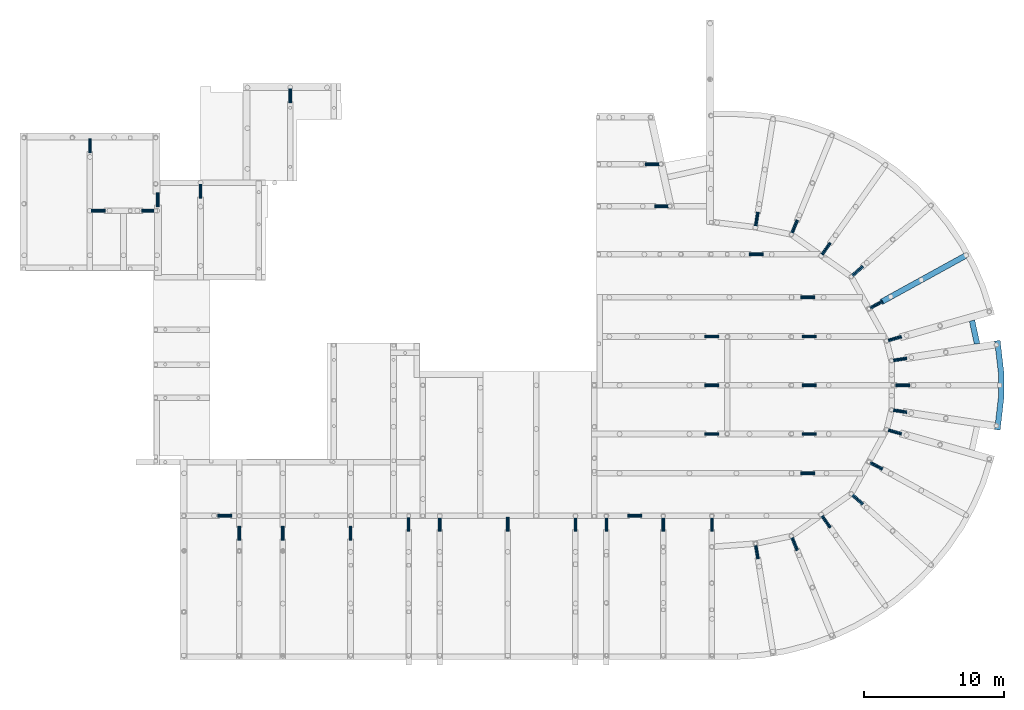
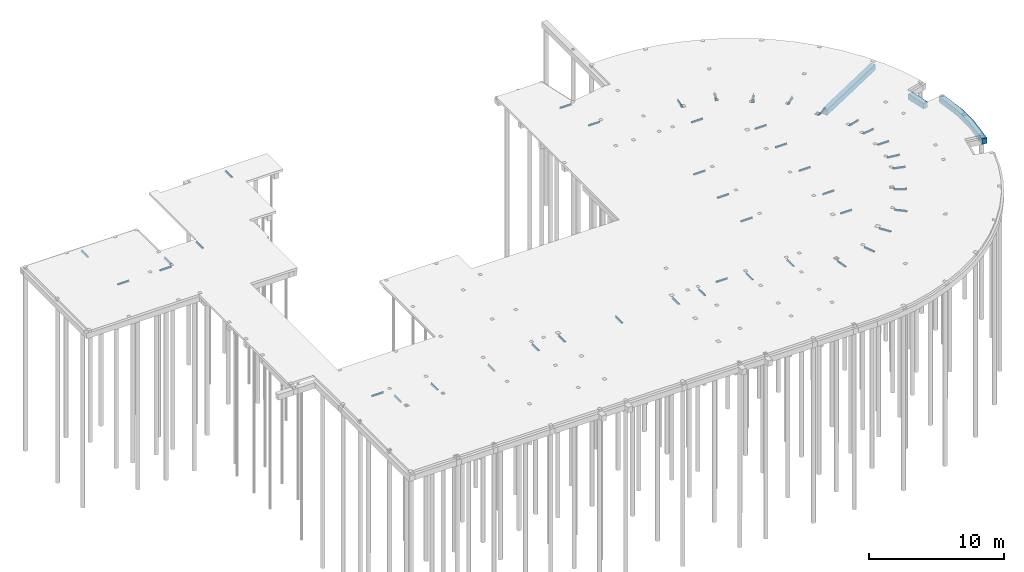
# One storey, part 6 of 22: 91 beams.
"""IFC2X3 building model written with IfcOpenShell, lengths in millimetres."""

from ifc_helpers import new_model, si_unit, frame, origin_with_axes, origin_2d_with_axis, place, context, subcontext, project, spatial, rectangle, extrude, clip, halfspace, faceted_brep, material, type_object, element, save


model = new_model("IFC2X3")

# Units and contexts
model_context = context("Model", 3, precision=1e-05, world=origin_with_axes())
body_context = subcontext(model_context, "Body", "Model", "MODEL_VIEW")
ifc_project = project(units=[si_unit("LENGTHUNIT", "METRE", prefix="MILLI"), si_unit("AREAUNIT", "SQUARE_METRE"), si_unit("VOLUMEUNIT", "CUBIC_METRE"), si_unit("MASSUNIT", "GRAM", prefix="KILO"), si_unit("TIMEUNIT", "SECOND"), si_unit("PLANEANGLEUNIT", "RADIAN"), si_unit("SOLIDANGLEUNIT", "STERADIAN"), si_unit("THERMODYNAMICTEMPERATUREUNIT", "DEGREE_CELSIUS"), si_unit("LUMINOUSINTENSITYUNIT", "LUMEN")], contexts=[model_context])

# Site, building, storey
site_placement = place(None, origin_with_axes())
site = spatial("IfcSite", under=ifc_project, at=site_placement, Name="Undefined", CompositionType="ELEMENT")
building_placement = place(site_placement, origin_with_axes())
building = spatial("IfcBuilding", under=site, at=building_placement, Name="Undefined", CompositionType="ELEMENT")
storey_placement = place(building_placement, origin_with_axes())
storey = spatial("IfcBuildingStorey", under=building, at=storey_placement, Name="Undefined", CompositionType="ELEMENT", Elevation=0.0)

# Beams
ifc_material_1 = material(Name="CONCRETE/C30/37")
beam_type_1 = type_object("IfcBeamType", Name="400*500", PredefinedType="NOTDEFINED")
beam_1_placement = place(storey_placement, frame((67996.183567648, 24218.1717269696, -520.0), z_axis=(0.0, 0.0, 1.0), x_axis=(0.211578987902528, -0.977360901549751, 0.0)))
element("IfcBeam", 1, at=beam_1_placement, inside=storey, type_object=beam_type_1, material=ifc_material_1, Name="BALK", context=body_context, shape_type="Clipping", body=[
    clip(clip(extrude(rectangle(XDim=400.0, YDim=500.0, at=origin_2d_with_axis()), frame((1837.99334941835, 0.0, 0.0), z_axis=(-1.0, 0.0, 0.0), x_axis=(0.0, -1.0, 0.0)), (0.0, 0.0, 1.0), 2035.02), halfspace(frame((1693.49527687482, 364.867330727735, 520.0), z_axis=(0.9980759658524, -0.0620029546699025, 0.0), x_axis=(-0.0620029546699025, -0.9980759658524, 0.0)), False)), halfspace(frame((-56.725872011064, 429.391826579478, 520.0), z_axis=(0.998049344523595, 0.0624300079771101, 0.0), x_axis=(0.0624300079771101, -0.998049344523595, 0.0)), True)),
])
beam_2_placement = place(storey_placement, frame((67507.7173699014, 28889.9866931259, -520.0), z_axis=(0.0, 0.0, 1.0), x_axis=(-0.876201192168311, -0.481945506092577, 0.0)))
element("IfcBeam", 2, at=beam_2_placement, inside=storey, type_object=beam_type_1, material=ifc_material_1, Name="BALK", context=body_context, shape_type="SweptSolid", body=[
    extrude(rectangle(XDim=400.0, YDim=500.0, at=origin_2d_with_axis()), frame((6879.90820317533, -3.81911624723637e-13, 0.0), z_axis=(-1.0, 0.0, 0.0), x_axis=(0.0, -1.0, 0.0)), (0.0, 0.0, 1.0), 6879.91),
])
beam_3_placement = place(storey_placement, frame((69803.4011095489, 16418.4739799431, -520.0), z_axis=(0.0, 0.0, 1.0), x_axis=(0.115783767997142, 0.993274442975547, 0.0)))
element("IfcBeam", 3, at=beam_3_placement, inside=storey, type_object=beam_type_1, material=ifc_material_1, Name="BALK", context=body_context, shape_type="Brep", body=[
    faceted_brep([(4021.85813486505, 394.866151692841, 250.0), (2353.01961454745, 199.999999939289, 250.0), (14.1140801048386, 200.000000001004, 250.0), (0.356181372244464, -200.000000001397, 250.0), (2376.29405436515, -200.000000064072, 250.0), (4091.35936963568, 0.263940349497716, 250.0), (6403.1620446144, 547.516415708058, 250.0), (6297.48874851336, 933.555936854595, 250.0), (2376.29405436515, -200.000000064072, -250.0), (4091.35936963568, 0.263940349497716, -250.0), (0.356181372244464, -200.000000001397, -250.0), (14.1140801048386, 200.000000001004, -250.0), (2353.01961454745, 199.999999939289, -250.0), (4021.85813486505, 394.866151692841, -250.0), (6297.48874851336, 933.555936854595, -250.0), (6403.1620446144, 547.516415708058, -250.0)], [[[0, 1, 2, 3, 4, 5, 6, 7]], [[4, 8, 9, 5]], [[3, 10, 8, 4]], [[9, 8, 10, 11, 12, 13, 14, 15]], [[5, 9, 15, 6]], [[14, 7, 6, 15]], [[13, 0, 7, 14]], [[12, 1, 0, 13]], [[11, 2, 1, 12]], [[10, 3, 2, 11]]]),
])
ifc_material_2 = material(Name="STEEL/S235JR")
beam_type_2 = type_object("IfcBeamType", Name="L150/100/10", PredefinedType="NOTDEFINED")
for number, where, z_axis, x_axis in (
    (4, (43340.6667266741, 10223.5976397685, -205.0), (0.0, 0.0, 1.0), (0.999999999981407, 6.09799999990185e-06, 0.0)),
    (5, (44340.666116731, 10323.624706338, -205.0), (0.0, 0.0, 1.0), (-0.999999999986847, -5.12899999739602e-06, 0.0)),
    (6, (13986.4997329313, 10223.6031279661, -205.0), (0.0, 0.0, 1.0), (1.0, 0.0, 0.0)),
    (7, (14986.4997329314, 10323.6240965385, -205.0), (0.0, 0.0, 1.0), (-1.0, 0.0, 0.0)),
    (8, (19109.1585228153, 40838.7542724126, -205.0), (0.0, 0.0, 1.0), (0.0, -1.0, 0.0)),
    (9, (19209.1794913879, 39838.7542724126, -205.0), (0.0, 0.0, 1.0), (0.0, 1.0, 0.0)),
    (10, (12686.0931216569, 34017.1130371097, -205.0), (0.0, 0.0, 1.0), (0.0, -1.0, 0.0)),
    (11, (12786.1140902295, 33017.1130371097, -205.0), (0.0, 0.0, 1.0), (0.0, 1.0, 0.0)),
    (12, (9625.00076344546, 33415.9883117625, -205.0), (0.0, 0.0, 1.0), (0.0, -1.0, 0.0)),
    (13, (9725.02173201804, 32415.9883117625, -205.0), (0.0, 0.0, 1.0), (0.0, 1.0, 0.0)),
    (14, (4766.91093570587, 37265.9858703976, -205.0), (0.0, 0.0, 1.0), (0.0, -1.0, 0.0)),
    (15, (4866.93190427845, 36265.9858703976, -205.0), (0.0, 0.0, 1.0), (0.0, 1.0, 0.0)),
    (16, (4916.91618446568, 32065.9628872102, -205.0), (0.0, 0.0, 1.0), (1.0, 0.0, 0.0)),
    (17, (5916.9161844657, 32165.9838557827, -205.0), (0.0, 0.0, 1.0), (-1.0, 0.0, 0.0)),
    (18, (8525.00076293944, 32065.9673431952, -205.0), (0.0, 0.0, 1.0), (1.0, 0.0, 0.0)),
    (19, (9525.00076293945, 32165.9883117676, -205.0), (0.0, 0.0, 1.0), (-1.0, 0.0, 0.0)),
    (20, (44585.778358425, 35402.0491538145, -205.0), (0.0, 0.0, 1.0), (1.0, 0.0, 0.0)),
    (21, (45585.778358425, 35502.0701223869, -205.0), (0.0, 0.0, 1.0), (-1.0, 0.0, 0.0)),
    (22, (45271.4467927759, 32388.7210784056, -205.0), (0.0, 0.0, 1.0), (1.0, 0.0, 0.0)),
    (23, (46271.4467927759, 32488.742046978, -205.0), (0.0, 0.0, 1.0), (-1.0, 0.0, 0.0)),
    (24, (52043.283619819, 28941.3362915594, -205.0), (0.0, 0.0, 1.0), (1.0, 0.0, 0.0)),
    (25, (53043.283619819, 29041.3572601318, -205.0), (0.0, 0.0, 1.0), (-1.0, 0.0, 0.0)),
    (26, (55714.0937151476, 25879.2967585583, -205.0), (0.0, 0.0, 1.0), (1.0, 0.0, 0.0)),
    (27, (56714.0937151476, 25979.3177271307, -205.0), (0.0, 0.0, 1.0), (-1.0, 0.0, 0.0)),
    (28, (48849.9999997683, 23058.6048462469, -205.0), (0.0, 0.0, 1.0), (1.0, 0.0, 0.0)),
    (29, (49849.9999997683, 23158.6258148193, -205.0), (0.0, 0.0, 1.0), (-1.0, 0.0, 0.0)),
    (30, (55824.4937151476, 23058.6048462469, -205.0), (0.0, 0.0, 1.0), (1.0, 0.0, 0.0)),
    (31, (56824.4937151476, 23158.6258148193, -205.0), (0.0, 0.0, 1.0), (-1.0, 0.0, 0.0)),
    (32, (55824.0937151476, 19570.0389984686, -205.0), (0.0, 0.0, 1.0), (1.0, 0.0, 0.0)),
    (33, (56824.0937151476, 19670.059967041, -205.0), (0.0, 0.0, 1.0), (-1.0, 0.0, 0.0)),
    (34, (48849.9999997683, 19566.0389361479, -205.0), (0.0, 0.0, 1.0), (1.0, 0.0, 0.0)),
    (35, (49849.9999997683, 19666.0599047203, -205.0), (0.0, 0.0, 1.0), (-1.0, 0.0, 0.0)),
    (36, (48849.9999997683, 16077.9389361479, -205.0), (0.0, 0.0, 1.0), (1.0, 0.0, 0.0)),
    (37, (49849.9999997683, 16177.9599047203, -205.0), (0.0, 0.0, 1.0), (-1.0, 0.0, 0.0)),
    (38, (55824.0937151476, 16077.9389361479, -205.0), (0.0, 0.0, 1.0), (1.0, 0.0, 0.0)),
    (39, (56824.0937151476, 16177.9599047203, -205.0), (0.0, 0.0, 1.0), (-1.0, 0.0, 0.0)),
    (40, (55714.0937151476, 13266.4203283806, -205.0), (0.0, 0.0, 1.0), (1.0, 0.0, 0.0)),
    (41, (56714.0937151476, 13366.441296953, -205.0), (0.0, 0.0, 1.0), (-1.0, 0.0, 0.0)),
    (42, (52543.0769627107, 31024.3302597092, -205.0), (0.0, 0.0, 1.0), (0.159577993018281, 0.987185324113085, 0.0)),
    (43, (52603.9157234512, 32027.4767292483, -205.0), (0.0, 0.0, 1.0), (-0.159577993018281, -0.987185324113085, 0.0)),
    (44, (55137.9453427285, 30493.3944233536, -205.0), (0.0, 0.0, 1.0), (0.377144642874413, 0.926154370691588, 0.0)),
    (45, (55422.4551287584, 31457.2711664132, -205.0), (0.0, 0.0, 1.0), (-0.377144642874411, -0.926154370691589, 0.0)),
    (46, (57293.8348527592, 28956.3956854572, -205.0), (0.0, 0.0, 1.0), (0.576559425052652, 0.817055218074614, 0.0)),
    (47, (57788.6716235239, 29831.1189356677, -205.0), (0.0, 0.0, 1.0), (-0.576559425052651, -0.817055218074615, 0.0)),
    (48, (59451.4191710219, 27424.1770318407, -205.0), (0.0, 0.0, 1.0), (0.745289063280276, 0.666741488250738, 0.0)),
    (49, (60130.0201048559, 28165.4630540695, -205.0), (0.0, 0.0, 1.0), (-0.745289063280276, -0.666741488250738, 0.0)),
    (50, (60715.0392975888, 25096.680691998, -205.0), (0.0, 0.0, 1.0), (0.876309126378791, 0.481749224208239, 0.0)),
    (51, (61543.1633999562, 25666.0792037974, -205.0), (0.0, 0.0, 1.0), (-0.876309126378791, -0.481749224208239, 0.0)),
    (52, (62912.4334890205, 23141.5882529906, -205.0), (0.0, 0.0, 1.0), (-0.962246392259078, -0.272179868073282, 0.0)),
    (53, (61977.4107907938, 22773.1635687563, -205.0), (0.0, 0.0, 1.0), (0.962246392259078, 0.272179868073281, 0.0)),
    (54, (62330.7085481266, 21344.9629980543, -205.0), (0.0, 0.0, 1.0), (0.988598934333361, 0.150572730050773, 0.0)),
    (55, (63304.2470521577, 21594.4163510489, -205.0), (0.0, 0.0, 1.0), (-0.988598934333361, -0.150572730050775, 0.0)),
    (56, (62524.5071572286, 19566.0389361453, -205.0), (0.0, 0.0, 1.0), (1.0, 0.0, 0.0)),
    (57, (63524.5071572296, 19666.0599047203, -205.0), (0.0, 0.0, 1.0), (-1.0, 0.0, 0.0)),
    (58, (62315.7289868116, 17788.0668013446, -205.0), (0.0, 0.0, 1.0), (0.988598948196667, -0.150572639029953, 0.0)),
    (59, (63319.3883562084, 17736.3747866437, -205.0), (0.0, 0.0, 1.0), (-0.988598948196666, 0.150572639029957, 0.0)),
    (60, (62942.3548243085, 16185.989813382, -205.0), (0.0, 0.0, 1.0), (-0.962245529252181, 0.272182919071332, 0.0)),
    (61, (61952.8852958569, 16361.9280026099, -205.0), (0.0, 0.0, 1.0), (0.962245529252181, -0.272182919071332, 0.0)),
    (62, (60666.3611369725, 14047.5828137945, -205.0), (0.0, 0.0, 1.0), (0.87642456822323, -0.481539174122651, 0.0)),
    (63, (61590.9497199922, 13653.7044743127, -205.0), (0.0, 0.0, 1.0), (-0.87642456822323, 0.481539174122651, 0.0)),
    (64, (59381.9077703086, 11735.8550920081, -205.0), (0.0, 0.0, 1.0), (0.745289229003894, -0.666741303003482, 0.0)),
    (65, (60193.8851102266, 11143.6583395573, -205.0), (0.0, 0.0, 1.0), (-0.745289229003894, 0.666741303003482, 0.0)),
    (66, (57209.8700307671, 10220.993747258, -205.0), (0.0, 0.0, 1.0), (0.576555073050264, -0.817058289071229, 0.0)),
    (67, (57868.1480652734, 9461.60305502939, -205.0), (0.0, 0.0, 1.0), (-0.576555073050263, 0.81705828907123, 0.0)),
    (68, (55041.3799311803, 8703.31511373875, -205.0), (0.0, 0.0, 1.0), (0.37998839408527, -0.924991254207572, 0.0)),
    (69, (55513.8868464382, 7816.33066675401, -205.0), (0.0, 0.0, 1.0), (-0.379988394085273, 0.924991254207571, 0.0)),
    (70, (52445.0967935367, 8168.99167263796, -205.0), (0.0, 0.0, 1.0), (0.162859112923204, -0.986649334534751, 0.0)),
    (71, (52706.6415285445, 7198.63166431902, -205.0), (0.0, 0.0, 1.0), (-0.162859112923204, 0.986649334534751, 0.0)),
    (72, (49311.6195845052, 10173.6239055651, -205.000000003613), (0.0, 0.0, 1.0), (0.0, -1.0, 0.0)),
    (73, (49411.6405530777, 9173.62390556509, -205.000000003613), (0.0, 0.0, 1.0), (0.0, 1.0, 0.0)),
    (74, (45823.9582229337, 10173.6239058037, -205.0), (0.0, 0.0, 1.0), (0.0, -1.0, 0.0)),
    (75, (45923.9791915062, 9173.62390580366, -205.0), (0.0, 0.0, 1.0), (0.0, 1.0, 0.0)),
    (76, (41757.2650011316, 10173.6239077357, -205.0), (0.0, 0.0, 1.0), (0.0, -1.0, 0.0)),
    (77, (41857.2859307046, 9173.62390383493, -205.0), (0.0, 0.0, 1.0), (0.0, 1.0, 0.0)),
    (78, (39537.2578913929, 10173.6238476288, -205.0), (0.0, 0.0, 1.0), (1.16300000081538e-06, -0.999999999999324, 0.0)),
    (79, (39637.2800229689, 9173.62396395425, -205.0), (0.0, 0.0, 1.0), (-1.13299999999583e-06, 0.999999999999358, 0.0)),
    (80, (34691.2811446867, 10173.6239058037, -205.0), (0.0, 0.0, 1.0), (0.0, -1.0, 0.0)),
    (81, (34791.3021132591, 9173.62390580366, -205.0), (0.0, 0.0, 1.0), (0.0, 1.0, 0.0)),
    (82, (29824.4715430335, 10173.6236532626, -205.0), (0.0, 0.0, 1.0), (5.0459999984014e-06, -0.999999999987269, 0.0)),
    (83, (29924.4975576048, 9173.62415798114, -205.0), (0.0, 0.0, 1.0), (-5.04599999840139e-06, 0.999999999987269, 0.0)),
    (84, (27584.6250700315, 10173.623905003, -205.0), (0.0, 0.0, 1.0), (0.0, -1.0, 0.0)),
    (85, (27684.6460546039, 9173.62390660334, -205.0), (0.0, 0.0, 1.0), (0.0, 1.0, 0.0)),
    (86, (23429.8132232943, 9523.77169555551, -205.0), (0.0, 0.0, 1.0), (0.0, -1.0, 0.0)),
    (87, (23529.8341918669, 8523.77169555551, -205.0), (0.0, 0.0, 1.0), (0.0, 1.0, 0.0)),
    (88, (18582.6738647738, 9523.77169555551, -205.0), (0.0, 0.0, 1.0), (0.0, -1.0, 0.0)),
    (89, (18682.6948333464, 8523.77169555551, -205.0), (0.0, 0.0, 1.0), (0.0, 1.0, 0.0)),
    (90, (15456.4895157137, 9523.77169555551, -205.0), (0.0, 0.0, 1.0), (0.0, -1.0, 0.0)),
    (91, (15556.5104842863, 8523.77169555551, -205.0), (0.0, 0.0, 1.0), (0.0, 1.0, 0.0)),
):
    element("IfcBeam", number, at=place(storey_placement, frame(where, z_axis=z_axis, x_axis=x_axis)), inside=storey, type_object=beam_type_2, material=ifc_material_2, Name="Ligger", context=body_context, shape_type="Brep", body=[
        faceted_brep([(-8.73114913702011e-11, 50.0000000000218, -75.0), (-8.73114913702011e-11, 50.0000000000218, 75.0), (999.999999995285, 50.0000000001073, 75.0), (999.999999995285, 50.0000000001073, -75.0), (-7.27595761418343e-11, 40.0000000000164, 75.0), (999.999999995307, 40.0000000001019, 75.0), (-7.27595761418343e-11, 40.0000000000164, -65.0), (999.999999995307, 40.0000000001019, -65.0), (1.01863406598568e-10, -50.0000000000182, -65.0), (999.999999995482, -49.9999999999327, -65.0), (1.01863406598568e-10, -50.0000000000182, -75.0), (999.999999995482, -49.9999999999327, -75.0)], [[[0, 1, 2, 3]], [[1, 4, 5, 2]], [[4, 6, 7, 5]], [[6, 8, 9, 7]], [[8, 10, 11, 9]], [[10, 0, 3, 11]], [[5, 7, 9, 11, 3, 2]], [[10, 8, 6, 4, 1, 0]]]),
    ])

save(model, "model.ifc")
